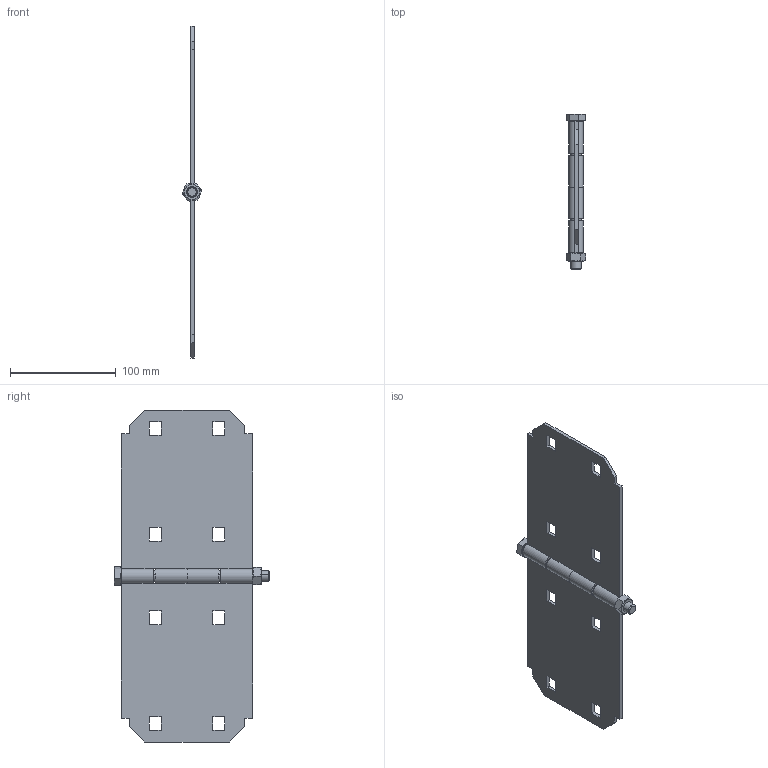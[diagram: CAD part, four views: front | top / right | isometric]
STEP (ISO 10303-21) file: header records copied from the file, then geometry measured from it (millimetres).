
FILE_DESCRIPTION (( 'STEP AP203' ), '1' );
FILE_NAME ('N3 HS.STEP', '2024-09-04T22:25:04', ( '' ), ( '' ), 'SwSTEP 2.0', 'SolidWorks 2023', '' );
FILE_SCHEMA (( 'CONFIG_CONTROL_DESIGN' ));
Length unit declared in the file: millimetre
Products named in the file (4): N3HS-FR60HS common splice plate_N2S<As Machined>; Hex bolt_Hex bolt M10x140; ISO 4032 - M10; N3 HS
Assembly tree (4 placements, depth 2):
  N3 HS
    N3HS-FR60HS common splice plate_N2S<As Machined>  x2
    Hex bolt_Hex bolt M10x140
    ISO 4032 - M10
Bounding box: 18.47 x 146.6 x 314 mm (x, y, z)
Volume: 127670.7 mm3; surface area: 90025.7 mm2
Topology: 8 solids, 8 shells, 132 faces, 330 edges, 216 vertices
Faces by surface type: plane 94, cylinder 22, cone 10, torus 6
Entity records: 3120 total; most frequent: CARTESIAN_POINT 643, ORIENTED_EDGE 420, DIRECTION 412, EDGE_CURVE 210, VECTOR 138, LINE 138, AXIS2_PLACEMENT_3D 137, VERTEX_POINT 136
